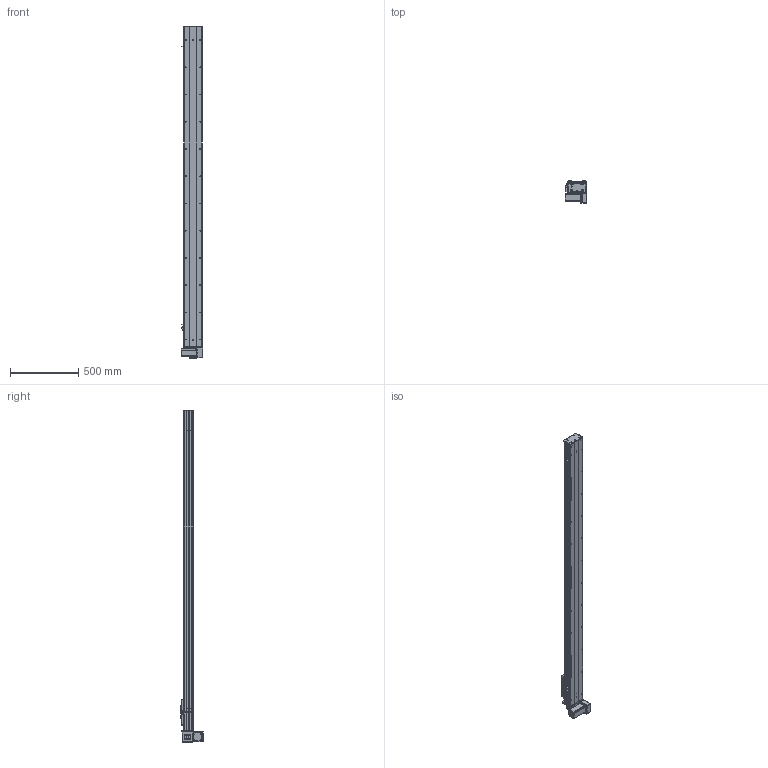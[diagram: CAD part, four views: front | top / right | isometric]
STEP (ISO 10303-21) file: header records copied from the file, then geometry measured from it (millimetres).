
FILE_DESCRIPTION (( 'STEP AP203' ), '1' );
FILE_NAME ('Y135CB-D90-S2050-BM-P400W.STEP', '2020-02-19T01:40:56', ( '微软用户' ), ( '微软中国' ), 'SwSTEP 2.0', 'SolidWorks 2017', '' );
FILE_SCHEMA (( 'CONFIG_CONTROL_DESIGN' ));
Length unit declared in the file: millimetre
Products named in the file (18): 135CB--詩湍-CE; 135CB---遴掛极.-; Y10B-耜蚾蟀諉啣----; Y100-135俋离換覜ん--; 35CB---喘謫眊楊擘啣; Y135CB-D90-S2050-BM-P400W; Y135C-陔俋离換覜結え-; 0B-埴倛裔啣; 5C--俋欶; 0B-源倛裔啣; C-雄赽釱--; 0B-萇儂楊擘啣; Y10B--々湍喘謫眊--666; san松下电机400不带刹车----; 00B-俋欶BM--; 5CB --掛极耜裔啣-; C-詩湍揤踡え-陔; Y135CB-耜裔
Assembly tree (21 placements, depth 2):
  Y135CB-D90-S2050-BM-P400W
    Y135CB-耜裔
    135CB---遴掛极.-
    35CB---喘謫眊楊擘啣
    0B-埴倛裔啣
    0B-源倛裔啣
    0B-萇儂楊擘啣
    san松下电机400不带刹车----
    5CB --掛极耜裔啣-  x2
    C-詩湍揤踡え-陔  x2
    135CB--詩湍-CE
    Y100-135俋离換覜ん--  x3
    Y135C-陔俋离換覜結え-
    5C--俋欶
    C-雄赽釱--
    Y10B--々湍喘謫眊--666
    00B-俋欶BM--
    Y10B-耜蚾蟀諉啣----
Bounding box: 157 x 163.3 x 2438 mm (x, y, z)
Volume: 7113266.4 mm3; surface area: 2810842.4 mm2
Topology: 21 solids, 21 shells, 965 faces, 2617 edges, 1734 vertices
Faces by surface type: cylinder 493, plane 456, cone 16
Entity records: 30359 total; most frequent: DIRECTION 5045, CARTESIAN_POINT 5032, ORIENTED_EDGE 4710, EDGE_CURVE 2355, AXIS2_PLACEMENT_3D 1847, VERTEX_POINT 1562, VECTOR 1351, LINE 1351
